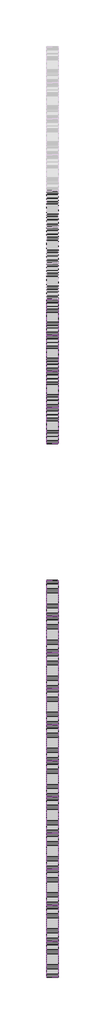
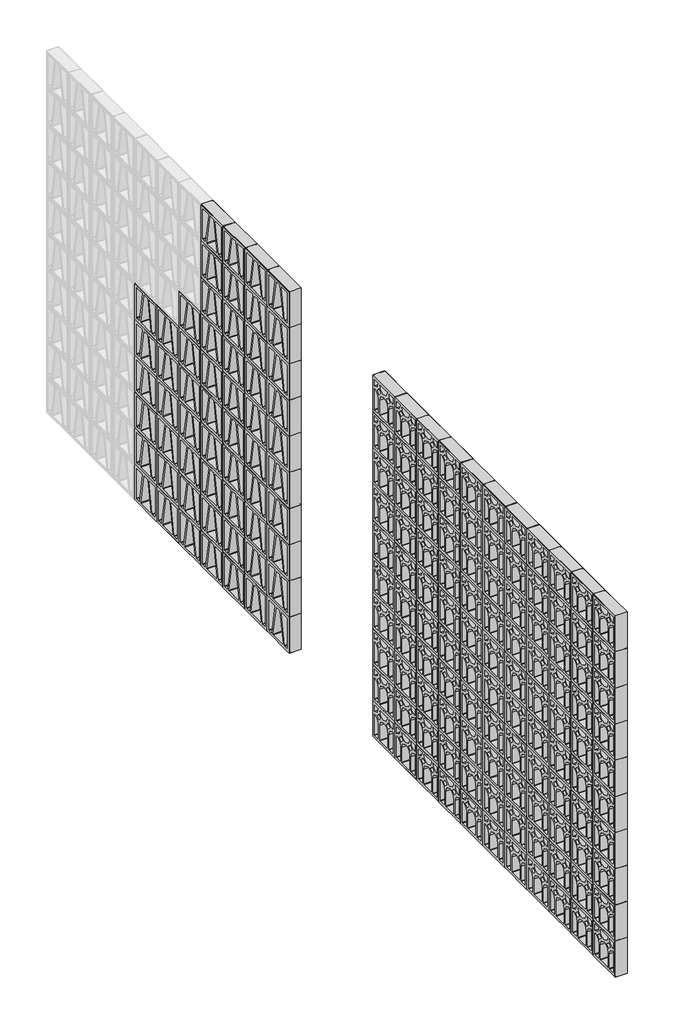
# One storey, part 1 of 8: 169 plates.
"""IFC4 building model written with IfcOpenShell, lengths in millimetres."""

from ifc_helpers import new_model, si_unit, origin, place, context, project, spatial, transform, mapped, element, save
from components import plate_7499bc92, plate_dd80494e

model = new_model("IFC4")

# Units and contexts
model_context = context("Model", 3, world=origin())
ifc_project = project(units=[si_unit("LENGTHUNIT", "METRE", prefix="MILLI")], contexts=[model_context])

# Site, building, storey
site = spatial("IfcSite", under=ifc_project)
building = spatial("IfcBuilding", under=site)
storey = spatial("IfcBuildingStorey", under=building, Name="PORTOBELLO - SHOWROOM", Elevation=0.0)

# Plates
placement = place(None, origin())
plate_shape = plate_7499bc92(model_context)
element("IfcPlate", 1, ObjectType="PORTOBELLO - STUDIO CRAFT 2 26X26 (PAINEL CORTINA) : STUDIO CRAFT 2", at=placement, inside=storey, context=model_context, shape_type="MappedRepresentation", body=[
    mapped(plate_shape, transform((227956.3824585, -9697.1299842, 0.0), x_axis=(0.0, 1.0, 0.0), y_axis=(-1.0, 0.0, 0.0), z_axis=(0.0, 0.0, 1.0))),
])
element("IfcPlate", 2, ObjectType="PORTOBELLO - STUDIO CRAFT 2 26X26 (PAINEL CORTINA) : STUDIO CRAFT 2", at=placement, inside=storey, context=model_context, shape_type="MappedRepresentation", body=[
    mapped(plate_shape, transform((227956.3824585, -9433.129984, 0.0), x_axis=(0.0, 1.0, 0.0), y_axis=(-1.0, 0.0, 0.0), z_axis=(0.0, 0.0, 1.0))),
])
element("IfcPlate", 3, ObjectType="PORTOBELLO - STUDIO CRAFT 2 26X26 (PAINEL CORTINA) : STUDIO CRAFT 2", at=placement, inside=storey, context=model_context, shape_type="MappedRepresentation", body=[
    mapped(plate_shape, transform((227956.3824585, -9169.129984, 0.0), x_axis=(0.0, 1.0, 0.0), y_axis=(-1.0, 0.0, 0.0), z_axis=(0.0, 0.0, 1.0))),
])
element("IfcPlate", 4, ObjectType="PORTOBELLO - STUDIO CRAFT 2 26X26 (PAINEL CORTINA) : STUDIO CRAFT 2", at=placement, inside=storey, context=model_context, shape_type="MappedRepresentation", body=[
    mapped(plate_shape, transform((227956.3824585, -8905.129984, 0.0), x_axis=(0.0, 1.0, 0.0), y_axis=(-1.0, 0.0, 0.0), z_axis=(0.0, 0.0, 1.0))),
])
element("IfcPlate", 5, ObjectType="PORTOBELLO - STUDIO CRAFT 2 26X26 (PAINEL CORTINA) : STUDIO CRAFT 2", at=placement, inside=storey, context=model_context, shape_type="MappedRepresentation", body=[
    mapped(plate_shape, transform((227956.3824585, -8641.129984, 0.0), x_axis=(0.0, 1.0, 0.0), y_axis=(-1.0, 0.0, 0.0), z_axis=(0.0, 0.0, 1.0))),
])
element("IfcPlate", 6, ObjectType="PORTOBELLO - STUDIO CRAFT 2 26X26 (PAINEL CORTINA) : STUDIO CRAFT 2", at=placement, inside=storey, context=model_context, shape_type="MappedRepresentation", body=[
    mapped(plate_shape, transform((227956.3824585, -8377.129984, 0.0), x_axis=(0.0, 1.0, 0.0), y_axis=(-1.0, 0.0, 0.0), z_axis=(0.0, 0.0, 1.0))),
])
element("IfcPlate", 7, ObjectType="PORTOBELLO - STUDIO CRAFT 2 26X26 (PAINEL CORTINA) : STUDIO CRAFT 2", at=placement, inside=storey, context=model_context, shape_type="MappedRepresentation", body=[
    mapped(plate_shape, transform((227956.3824585, -8113.129984, 0.0), x_axis=(0.0, 1.0, 0.0), y_axis=(-1.0, 0.0, 0.0), z_axis=(0.0, 0.0, 1.0))),
])
element("IfcPlate", 8, ObjectType="PORTOBELLO - STUDIO CRAFT 2 26X26 (PAINEL CORTINA) : STUDIO CRAFT 2", at=placement, inside=storey, context=model_context, shape_type="MappedRepresentation", body=[
    mapped(plate_shape, transform((227956.3824585, -7849.129984, 0.0), x_axis=(0.0, 1.0, 0.0), y_axis=(-1.0, 0.0, 0.0), z_axis=(0.0, 0.0, 1.0))),
])
element("IfcPlate", 9, ObjectType="PORTOBELLO - STUDIO CRAFT 2 26X26 (PAINEL CORTINA) : STUDIO CRAFT 2", at=placement, inside=storey, context=model_context, shape_type="MappedRepresentation", body=[
    mapped(plate_shape, transform((227956.3824585, -7585.129984, 0.0), x_axis=(0.0, 1.0, 0.0), y_axis=(-1.0, 0.0, 0.0), z_axis=(0.0, 0.0, 1.0))),
])
element("IfcPlate", 10, ObjectType="PORTOBELLO - STUDIO CRAFT 2 26X26 (PAINEL CORTINA) : STUDIO CRAFT 2", at=placement, inside=storey, context=model_context, shape_type="MappedRepresentation", body=[
    mapped(plate_shape, transform((227956.3824585, -7321.129984, 0.0), x_axis=(0.0, 1.0, 0.0), y_axis=(-1.0, 0.0, 0.0), z_axis=(0.0, 0.0, 1.0))),
])
element("IfcPlate", 11, ObjectType="PORTOBELLO - STUDIO CRAFT 2 26X26 (PAINEL CORTINA) : STUDIO CRAFT 2", at=placement, inside=storey, context=model_context, shape_type="MappedRepresentation", body=[
    mapped(plate_shape, transform((227956.3824585, -7057.1299841, 0.0), x_axis=(0.0, 1.0, 0.0), y_axis=(-1.0, 0.0, 0.0), z_axis=(0.0, 0.0, 1.0))),
])
element("IfcPlate", 12, ObjectType="PORTOBELLO - STUDIO CRAFT 2 26X26 (PAINEL CORTINA) : STUDIO CRAFT 2", at=placement, inside=storey, context=model_context, shape_type="MappedRepresentation", body=[
    mapped(plate_shape, transform((227956.3824585, -9697.1299842, 264.0), x_axis=(0.0, 1.0, 0.0), y_axis=(-1.0, 0.0, 0.0), z_axis=(0.0, 0.0, 1.0))),
])
element("IfcPlate", 13, ObjectType="PORTOBELLO - STUDIO CRAFT 2 26X26 (PAINEL CORTINA) : STUDIO CRAFT 2", at=placement, inside=storey, context=model_context, shape_type="MappedRepresentation", body=[
    mapped(plate_shape, transform((227956.3824585, -9433.129984, 264.0), x_axis=(0.0, 1.0, 0.0), y_axis=(-1.0, 0.0, 0.0), z_axis=(0.0, 0.0, 1.0))),
])
element("IfcPlate", 14, ObjectType="PORTOBELLO - STUDIO CRAFT 2 26X26 (PAINEL CORTINA) : STUDIO CRAFT 2", at=placement, inside=storey, context=model_context, shape_type="MappedRepresentation", body=[
    mapped(plate_shape, transform((227956.3824585, -9169.129984, 264.0), x_axis=(0.0, 1.0, 0.0), y_axis=(-1.0, 0.0, 0.0), z_axis=(0.0, 0.0, 1.0))),
])
element("IfcPlate", 15, ObjectType="PORTOBELLO - STUDIO CRAFT 2 26X26 (PAINEL CORTINA) : STUDIO CRAFT 2", at=placement, inside=storey, context=model_context, shape_type="MappedRepresentation", body=[
    mapped(plate_shape, transform((227956.3824585, -8905.129984, 264.0), x_axis=(0.0, 1.0, 0.0), y_axis=(-1.0, 0.0, 0.0), z_axis=(0.0, 0.0, 1.0))),
])
element("IfcPlate", 16, ObjectType="PORTOBELLO - STUDIO CRAFT 2 26X26 (PAINEL CORTINA) : STUDIO CRAFT 2", at=placement, inside=storey, context=model_context, shape_type="MappedRepresentation", body=[
    mapped(plate_shape, transform((227956.3824585, -8641.129984, 264.0), x_axis=(0.0, 1.0, 0.0), y_axis=(-1.0, 0.0, 0.0), z_axis=(0.0, 0.0, 1.0))),
])
element("IfcPlate", 17, ObjectType="PORTOBELLO - STUDIO CRAFT 2 26X26 (PAINEL CORTINA) : STUDIO CRAFT 2", at=placement, inside=storey, context=model_context, shape_type="MappedRepresentation", body=[
    mapped(plate_shape, transform((227956.3824585, -8377.129984, 264.0), x_axis=(0.0, 1.0, 0.0), y_axis=(-1.0, 0.0, 0.0), z_axis=(0.0, 0.0, 1.0))),
])
element("IfcPlate", 18, ObjectType="PORTOBELLO - STUDIO CRAFT 2 26X26 (PAINEL CORTINA) : STUDIO CRAFT 2", at=placement, inside=storey, context=model_context, shape_type="MappedRepresentation", body=[
    mapped(plate_shape, transform((227956.3824585, -8113.129984, 264.0), x_axis=(0.0, 1.0, 0.0), y_axis=(-1.0, 0.0, 0.0), z_axis=(0.0, 0.0, 1.0))),
])
element("IfcPlate", 19, ObjectType="PORTOBELLO - STUDIO CRAFT 2 26X26 (PAINEL CORTINA) : STUDIO CRAFT 2", at=placement, inside=storey, context=model_context, shape_type="MappedRepresentation", body=[
    mapped(plate_shape, transform((227956.3824585, -7849.129984, 264.0), x_axis=(0.0, 1.0, 0.0), y_axis=(-1.0, 0.0, 0.0), z_axis=(0.0, 0.0, 1.0))),
])
element("IfcPlate", 20, ObjectType="PORTOBELLO - STUDIO CRAFT 2 26X26 (PAINEL CORTINA) : STUDIO CRAFT 2", at=placement, inside=storey, context=model_context, shape_type="MappedRepresentation", body=[
    mapped(plate_shape, transform((227956.3824585, -7585.129984, 264.0), x_axis=(0.0, 1.0, 0.0), y_axis=(-1.0, 0.0, 0.0), z_axis=(0.0, 0.0, 1.0))),
])
element("IfcPlate", 21, ObjectType="PORTOBELLO - STUDIO CRAFT 2 26X26 (PAINEL CORTINA) : STUDIO CRAFT 2", at=placement, inside=storey, context=model_context, shape_type="MappedRepresentation", body=[
    mapped(plate_shape, transform((227956.3824585, -7321.129984, 264.0), x_axis=(0.0, 1.0, 0.0), y_axis=(-1.0, 0.0, 0.0), z_axis=(0.0, 0.0, 1.0))),
])
element("IfcPlate", 22, ObjectType="PORTOBELLO - STUDIO CRAFT 2 26X26 (PAINEL CORTINA) : STUDIO CRAFT 2", at=placement, inside=storey, context=model_context, shape_type="MappedRepresentation", body=[
    mapped(plate_shape, transform((227956.3824585, -7057.1299841, 264.0), x_axis=(0.0, 1.0, 0.0), y_axis=(-1.0, 0.0, 0.0), z_axis=(0.0, 0.0, 1.0))),
])
element("IfcPlate", 23, ObjectType="PORTOBELLO - STUDIO CRAFT 2 26X26 (PAINEL CORTINA) : STUDIO CRAFT 2", at=placement, inside=storey, context=model_context, shape_type="MappedRepresentation", body=[
    mapped(plate_shape, transform((227956.3824585, -9697.1299842, 528.0), x_axis=(0.0, 1.0, 0.0), y_axis=(-1.0, 0.0, 0.0), z_axis=(0.0, 0.0, 1.0))),
])
element("IfcPlate", 24, ObjectType="PORTOBELLO - STUDIO CRAFT 2 26X26 (PAINEL CORTINA) : STUDIO CRAFT 2", at=placement, inside=storey, context=model_context, shape_type="MappedRepresentation", body=[
    mapped(plate_shape, transform((227956.3824585, -9433.129984, 528.0), x_axis=(0.0, 1.0, 0.0), y_axis=(-1.0, 0.0, 0.0), z_axis=(0.0, 0.0, 1.0))),
])
element("IfcPlate", 25, ObjectType="PORTOBELLO - STUDIO CRAFT 2 26X26 (PAINEL CORTINA) : STUDIO CRAFT 2", at=placement, inside=storey, context=model_context, shape_type="MappedRepresentation", body=[
    mapped(plate_shape, transform((227956.3824585, -9169.129984, 528.0), x_axis=(0.0, 1.0, 0.0), y_axis=(-1.0, 0.0, 0.0), z_axis=(0.0, 0.0, 1.0))),
])
element("IfcPlate", 26, ObjectType="PORTOBELLO - STUDIO CRAFT 2 26X26 (PAINEL CORTINA) : STUDIO CRAFT 2", at=placement, inside=storey, context=model_context, shape_type="MappedRepresentation", body=[
    mapped(plate_shape, transform((227956.3824585, -8905.129984, 528.0), x_axis=(0.0, 1.0, 0.0), y_axis=(-1.0, 0.0, 0.0), z_axis=(0.0, 0.0, 1.0))),
])
element("IfcPlate", 27, ObjectType="PORTOBELLO - STUDIO CRAFT 2 26X26 (PAINEL CORTINA) : STUDIO CRAFT 2", at=placement, inside=storey, context=model_context, shape_type="MappedRepresentation", body=[
    mapped(plate_shape, transform((227956.3824585, -8641.129984, 528.0), x_axis=(0.0, 1.0, 0.0), y_axis=(-1.0, 0.0, 0.0), z_axis=(0.0, 0.0, 1.0))),
])
element("IfcPlate", 28, ObjectType="PORTOBELLO - STUDIO CRAFT 2 26X26 (PAINEL CORTINA) : STUDIO CRAFT 2", at=placement, inside=storey, context=model_context, shape_type="MappedRepresentation", body=[
    mapped(plate_shape, transform((227956.3824585, -8377.129984, 528.0), x_axis=(0.0, 1.0, 0.0), y_axis=(-1.0, 0.0, 0.0), z_axis=(0.0, 0.0, 1.0))),
])
element("IfcPlate", 29, ObjectType="PORTOBELLO - STUDIO CRAFT 2 26X26 (PAINEL CORTINA) : STUDIO CRAFT 2", at=placement, inside=storey, context=model_context, shape_type="MappedRepresentation", body=[
    mapped(plate_shape, transform((227956.3824585, -8113.129984, 528.0), x_axis=(0.0, 1.0, 0.0), y_axis=(-1.0, 0.0, 0.0), z_axis=(0.0, 0.0, 1.0))),
])
element("IfcPlate", 30, ObjectType="PORTOBELLO - STUDIO CRAFT 2 26X26 (PAINEL CORTINA) : STUDIO CRAFT 2", at=placement, inside=storey, context=model_context, shape_type="MappedRepresentation", body=[
    mapped(plate_shape, transform((227956.3824585, -7849.129984, 528.0), x_axis=(0.0, 1.0, 0.0), y_axis=(-1.0, 0.0, 0.0), z_axis=(0.0, 0.0, 1.0))),
])
element("IfcPlate", 31, ObjectType="PORTOBELLO - STUDIO CRAFT 2 26X26 (PAINEL CORTINA) : STUDIO CRAFT 2", at=placement, inside=storey, context=model_context, shape_type="MappedRepresentation", body=[
    mapped(plate_shape, transform((227956.3824585, -7585.129984, 528.0), x_axis=(0.0, 1.0, 0.0), y_axis=(-1.0, 0.0, 0.0), z_axis=(0.0, 0.0, 1.0))),
])
element("IfcPlate", 32, ObjectType="PORTOBELLO - STUDIO CRAFT 2 26X26 (PAINEL CORTINA) : STUDIO CRAFT 2", at=placement, inside=storey, context=model_context, shape_type="MappedRepresentation", body=[
    mapped(plate_shape, transform((227956.3824585, -7321.129984, 528.0), x_axis=(0.0, 1.0, 0.0), y_axis=(-1.0, 0.0, 0.0), z_axis=(0.0, 0.0, 1.0))),
])
element("IfcPlate", 33, ObjectType="PORTOBELLO - STUDIO CRAFT 2 26X26 (PAINEL CORTINA) : STUDIO CRAFT 2", at=placement, inside=storey, context=model_context, shape_type="MappedRepresentation", body=[
    mapped(plate_shape, transform((227956.3824585, -7057.1299841, 528.0), x_axis=(0.0, 1.0, 0.0), y_axis=(-1.0, 0.0, 0.0), z_axis=(0.0, 0.0, 1.0))),
])
element("IfcPlate", 34, ObjectType="PORTOBELLO - STUDIO CRAFT 2 26X26 (PAINEL CORTINA) : STUDIO CRAFT 2", at=placement, inside=storey, context=model_context, shape_type="MappedRepresentation", body=[
    mapped(plate_shape, transform((227956.3824585, -9697.1299842, 792.0), x_axis=(0.0, 1.0, 0.0), y_axis=(-1.0, 0.0, 0.0), z_axis=(0.0, 0.0, 1.0))),
])
element("IfcPlate", 35, ObjectType="PORTOBELLO - STUDIO CRAFT 2 26X26 (PAINEL CORTINA) : STUDIO CRAFT 2", at=placement, inside=storey, context=model_context, shape_type="MappedRepresentation", body=[
    mapped(plate_shape, transform((227956.3824585, -9433.129984, 792.0), x_axis=(0.0, 1.0, 0.0), y_axis=(-1.0, 0.0, 0.0), z_axis=(0.0, 0.0, 1.0))),
])
element("IfcPlate", 36, ObjectType="PORTOBELLO - STUDIO CRAFT 2 26X26 (PAINEL CORTINA) : STUDIO CRAFT 2", at=placement, inside=storey, context=model_context, shape_type="MappedRepresentation", body=[
    mapped(plate_shape, transform((227956.3824585, -9169.129984, 792.0), x_axis=(0.0, 1.0, 0.0), y_axis=(-1.0, 0.0, 0.0), z_axis=(0.0, 0.0, 1.0))),
])
element("IfcPlate", 37, ObjectType="PORTOBELLO - STUDIO CRAFT 2 26X26 (PAINEL CORTINA) : STUDIO CRAFT 2", at=placement, inside=storey, context=model_context, shape_type="MappedRepresentation", body=[
    mapped(plate_shape, transform((227956.3824585, -8905.129984, 792.0), x_axis=(0.0, 1.0, 0.0), y_axis=(-1.0, 0.0, 0.0), z_axis=(0.0, 0.0, 1.0))),
])
element("IfcPlate", 38, ObjectType="PORTOBELLO - STUDIO CRAFT 2 26X26 (PAINEL CORTINA) : STUDIO CRAFT 2", at=placement, inside=storey, context=model_context, shape_type="MappedRepresentation", body=[
    mapped(plate_shape, transform((227956.3824585, -8641.129984, 792.0), x_axis=(0.0, 1.0, 0.0), y_axis=(-1.0, 0.0, 0.0), z_axis=(0.0, 0.0, 1.0))),
])
element("IfcPlate", 39, ObjectType="PORTOBELLO - STUDIO CRAFT 2 26X26 (PAINEL CORTINA) : STUDIO CRAFT 2", at=placement, inside=storey, context=model_context, shape_type="MappedRepresentation", body=[
    mapped(plate_shape, transform((227956.3824585, -8377.129984, 792.0), x_axis=(0.0, 1.0, 0.0), y_axis=(-1.0, 0.0, 0.0), z_axis=(0.0, 0.0, 1.0))),
])
element("IfcPlate", 40, ObjectType="PORTOBELLO - STUDIO CRAFT 2 26X26 (PAINEL CORTINA) : STUDIO CRAFT 2", at=placement, inside=storey, context=model_context, shape_type="MappedRepresentation", body=[
    mapped(plate_shape, transform((227956.3824585, -8113.129984, 792.0), x_axis=(0.0, 1.0, 0.0), y_axis=(-1.0, 0.0, 0.0), z_axis=(0.0, 0.0, 1.0))),
])
element("IfcPlate", 41, ObjectType="PORTOBELLO - STUDIO CRAFT 2 26X26 (PAINEL CORTINA) : STUDIO CRAFT 2", at=placement, inside=storey, context=model_context, shape_type="MappedRepresentation", body=[
    mapped(plate_shape, transform((227956.3824585, -7849.129984, 792.0), x_axis=(0.0, 1.0, 0.0), y_axis=(-1.0, 0.0, 0.0), z_axis=(0.0, 0.0, 1.0))),
])
element("IfcPlate", 42, ObjectType="PORTOBELLO - STUDIO CRAFT 2 26X26 (PAINEL CORTINA) : STUDIO CRAFT 2", at=placement, inside=storey, context=model_context, shape_type="MappedRepresentation", body=[
    mapped(plate_shape, transform((227956.3824585, -7585.129984, 792.0), x_axis=(0.0, 1.0, 0.0), y_axis=(-1.0, 0.0, 0.0), z_axis=(0.0, 0.0, 1.0))),
])
element("IfcPlate", 43, ObjectType="PORTOBELLO - STUDIO CRAFT 2 26X26 (PAINEL CORTINA) : STUDIO CRAFT 2", at=placement, inside=storey, context=model_context, shape_type="MappedRepresentation", body=[
    mapped(plate_shape, transform((227956.3824585, -7321.129984, 792.0), x_axis=(0.0, 1.0, 0.0), y_axis=(-1.0, 0.0, 0.0), z_axis=(0.0, 0.0, 1.0))),
])
element("IfcPlate", 44, ObjectType="PORTOBELLO - STUDIO CRAFT 2 26X26 (PAINEL CORTINA) : STUDIO CRAFT 2", at=placement, inside=storey, context=model_context, shape_type="MappedRepresentation", body=[
    mapped(plate_shape, transform((227956.3824585, -7057.1299841, 792.0), x_axis=(0.0, 1.0, 0.0), y_axis=(-1.0, 0.0, 0.0), z_axis=(0.0, 0.0, 1.0))),
])
element("IfcPlate", 45, ObjectType="PORTOBELLO - STUDIO CRAFT 2 26X26 (PAINEL CORTINA) : STUDIO CRAFT 2", at=placement, inside=storey, context=model_context, shape_type="MappedRepresentation", body=[
    mapped(plate_shape, transform((227956.3824585, -9697.1299842, 1056.0), x_axis=(0.0, 1.0, 0.0), y_axis=(-1.0, 0.0, 0.0), z_axis=(0.0, 0.0, 1.0))),
])
element("IfcPlate", 46, ObjectType="PORTOBELLO - STUDIO CRAFT 2 26X26 (PAINEL CORTINA) : STUDIO CRAFT 2", at=placement, inside=storey, context=model_context, shape_type="MappedRepresentation", body=[
    mapped(plate_shape, transform((227956.3824585, -9433.129984, 1056.0), x_axis=(0.0, 1.0, 0.0), y_axis=(-1.0, 0.0, 0.0), z_axis=(0.0, 0.0, 1.0))),
])
element("IfcPlate", 47, ObjectType="PORTOBELLO - STUDIO CRAFT 2 26X26 (PAINEL CORTINA) : STUDIO CRAFT 2", at=placement, inside=storey, context=model_context, shape_type="MappedRepresentation", body=[
    mapped(plate_shape, transform((227956.3824585, -9169.129984, 1056.0), x_axis=(0.0, 1.0, 0.0), y_axis=(-1.0, 0.0, 0.0), z_axis=(0.0, 0.0, 1.0))),
])
element("IfcPlate", 48, ObjectType="PORTOBELLO - STUDIO CRAFT 2 26X26 (PAINEL CORTINA) : STUDIO CRAFT 2", at=placement, inside=storey, context=model_context, shape_type="MappedRepresentation", body=[
    mapped(plate_shape, transform((227956.3824585, -8905.129984, 1056.0), x_axis=(0.0, 1.0, 0.0), y_axis=(-1.0, 0.0, 0.0), z_axis=(0.0, 0.0, 1.0))),
])
element("IfcPlate", 49, ObjectType="PORTOBELLO - STUDIO CRAFT 2 26X26 (PAINEL CORTINA) : STUDIO CRAFT 2", at=placement, inside=storey, context=model_context, shape_type="MappedRepresentation", body=[
    mapped(plate_shape, transform((227956.3824585, -8641.129984, 1056.0), x_axis=(0.0, 1.0, 0.0), y_axis=(-1.0, 0.0, 0.0), z_axis=(0.0, 0.0, 1.0))),
])
element("IfcPlate", 50, ObjectType="PORTOBELLO - STUDIO CRAFT 2 26X26 (PAINEL CORTINA) : STUDIO CRAFT 2", at=placement, inside=storey, context=model_context, shape_type="MappedRepresentation", body=[
    mapped(plate_shape, transform((227956.3824585, -8377.129984, 1056.0), x_axis=(0.0, 1.0, 0.0), y_axis=(-1.0, 0.0, 0.0), z_axis=(0.0, 0.0, 1.0))),
])
element("IfcPlate", 51, ObjectType="PORTOBELLO - STUDIO CRAFT 2 26X26 (PAINEL CORTINA) : STUDIO CRAFT 2", at=placement, inside=storey, context=model_context, shape_type="MappedRepresentation", body=[
    mapped(plate_shape, transform((227956.3824585, -8113.129984, 1056.0), x_axis=(0.0, 1.0, 0.0), y_axis=(-1.0, 0.0, 0.0), z_axis=(0.0, 0.0, 1.0))),
])
element("IfcPlate", 52, ObjectType="PORTOBELLO - STUDIO CRAFT 2 26X26 (PAINEL CORTINA) : STUDIO CRAFT 2", at=placement, inside=storey, context=model_context, shape_type="MappedRepresentation", body=[
    mapped(plate_shape, transform((227956.3824585, -7849.129984, 1056.0), x_axis=(0.0, 1.0, 0.0), y_axis=(-1.0, 0.0, 0.0), z_axis=(0.0, 0.0, 1.0))),
])
element("IfcPlate", 53, ObjectType="PORTOBELLO - STUDIO CRAFT 2 26X26 (PAINEL CORTINA) : STUDIO CRAFT 2", at=placement, inside=storey, context=model_context, shape_type="MappedRepresentation", body=[
    mapped(plate_shape, transform((227956.3824585, -7585.129984, 1056.0), x_axis=(0.0, 1.0, 0.0), y_axis=(-1.0, 0.0, 0.0), z_axis=(0.0, 0.0, 1.0))),
])
element("IfcPlate", 54, ObjectType="PORTOBELLO - STUDIO CRAFT 2 26X26 (PAINEL CORTINA) : STUDIO CRAFT 2", at=placement, inside=storey, context=model_context, shape_type="MappedRepresentation", body=[
    mapped(plate_shape, transform((227956.3824585, -7321.129984, 1056.0), x_axis=(0.0, 1.0, 0.0), y_axis=(-1.0, 0.0, 0.0), z_axis=(0.0, 0.0, 1.0))),
])
element("IfcPlate", 55, ObjectType="PORTOBELLO - STUDIO CRAFT 2 26X26 (PAINEL CORTINA) : STUDIO CRAFT 2", at=placement, inside=storey, context=model_context, shape_type="MappedRepresentation", body=[
    mapped(plate_shape, transform((227956.3824585, -7057.1299841, 1056.0), x_axis=(0.0, 1.0, 0.0), y_axis=(-1.0, 0.0, 0.0), z_axis=(0.0, 0.0, 1.0))),
])
element("IfcPlate", 56, ObjectType="PORTOBELLO - STUDIO CRAFT 2 26X26 (PAINEL CORTINA) : STUDIO CRAFT 2", at=placement, inside=storey, context=model_context, shape_type="MappedRepresentation", body=[
    mapped(plate_shape, transform((227956.3824585, -9697.1299842, 1320.0), x_axis=(0.0, 1.0, 0.0), y_axis=(-1.0, 0.0, 0.0), z_axis=(0.0, 0.0, 1.0))),
])
element("IfcPlate", 57, ObjectType="PORTOBELLO - STUDIO CRAFT 2 26X26 (PAINEL CORTINA) : STUDIO CRAFT 2", at=placement, inside=storey, context=model_context, shape_type="MappedRepresentation", body=[
    mapped(plate_shape, transform((227956.3824585, -9433.129984, 1320.0), x_axis=(0.0, 1.0, 0.0), y_axis=(-1.0, 0.0, 0.0), z_axis=(0.0, 0.0, 1.0))),
])
element("IfcPlate", 58, ObjectType="PORTOBELLO - STUDIO CRAFT 2 26X26 (PAINEL CORTINA) : STUDIO CRAFT 2", at=placement, inside=storey, context=model_context, shape_type="MappedRepresentation", body=[
    mapped(plate_shape, transform((227956.3824585, -9169.129984, 1320.0), x_axis=(0.0, 1.0, 0.0), y_axis=(-1.0, 0.0, 0.0), z_axis=(0.0, 0.0, 1.0))),
])
element("IfcPlate", 59, ObjectType="PORTOBELLO - STUDIO CRAFT 2 26X26 (PAINEL CORTINA) : STUDIO CRAFT 2", at=placement, inside=storey, context=model_context, shape_type="MappedRepresentation", body=[
    mapped(plate_shape, transform((227956.3824585, -8905.129984, 1320.0), x_axis=(0.0, 1.0, 0.0), y_axis=(-1.0, 0.0, 0.0), z_axis=(0.0, 0.0, 1.0))),
])
element("IfcPlate", 60, ObjectType="PORTOBELLO - STUDIO CRAFT 2 26X26 (PAINEL CORTINA) : STUDIO CRAFT 2", at=placement, inside=storey, context=model_context, shape_type="MappedRepresentation", body=[
    mapped(plate_shape, transform((227956.3824585, -8641.129984, 1320.0), x_axis=(0.0, 1.0, 0.0), y_axis=(-1.0, 0.0, 0.0), z_axis=(0.0, 0.0, 1.0))),
])
element("IfcPlate", 61, ObjectType="PORTOBELLO - STUDIO CRAFT 2 26X26 (PAINEL CORTINA) : STUDIO CRAFT 2", at=placement, inside=storey, context=model_context, shape_type="MappedRepresentation", body=[
    mapped(plate_shape, transform((227956.3824585, -8377.129984, 1320.0), x_axis=(0.0, 1.0, 0.0), y_axis=(-1.0, 0.0, 0.0), z_axis=(0.0, 0.0, 1.0))),
])
element("IfcPlate", 62, ObjectType="PORTOBELLO - STUDIO CRAFT 2 26X26 (PAINEL CORTINA) : STUDIO CRAFT 2", at=placement, inside=storey, context=model_context, shape_type="MappedRepresentation", body=[
    mapped(plate_shape, transform((227956.3824585, -8113.129984, 1320.0), x_axis=(0.0, 1.0, 0.0), y_axis=(-1.0, 0.0, 0.0), z_axis=(0.0, 0.0, 1.0))),
])
element("IfcPlate", 63, ObjectType="PORTOBELLO - STUDIO CRAFT 2 26X26 (PAINEL CORTINA) : STUDIO CRAFT 2", at=placement, inside=storey, context=model_context, shape_type="MappedRepresentation", body=[
    mapped(plate_shape, transform((227956.3824585, -7849.129984, 1320.0), x_axis=(0.0, 1.0, 0.0), y_axis=(-1.0, 0.0, 0.0), z_axis=(0.0, 0.0, 1.0))),
])
element("IfcPlate", 64, ObjectType="PORTOBELLO - STUDIO CRAFT 2 26X26 (PAINEL CORTINA) : STUDIO CRAFT 2", at=placement, inside=storey, context=model_context, shape_type="MappedRepresentation", body=[
    mapped(plate_shape, transform((227956.3824585, -7585.129984, 1320.0), x_axis=(0.0, 1.0, 0.0), y_axis=(-1.0, 0.0, 0.0), z_axis=(0.0, 0.0, 1.0))),
])
element("IfcPlate", 65, ObjectType="PORTOBELLO - STUDIO CRAFT 2 26X26 (PAINEL CORTINA) : STUDIO CRAFT 2", at=placement, inside=storey, context=model_context, shape_type="MappedRepresentation", body=[
    mapped(plate_shape, transform((227956.3824585, -7321.129984, 1320.0), x_axis=(0.0, 1.0, 0.0), y_axis=(-1.0, 0.0, 0.0), z_axis=(0.0, 0.0, 1.0))),
])
element("IfcPlate", 66, ObjectType="PORTOBELLO - STUDIO CRAFT 2 26X26 (PAINEL CORTINA) : STUDIO CRAFT 2", at=placement, inside=storey, context=model_context, shape_type="MappedRepresentation", body=[
    mapped(plate_shape, transform((227956.3824585, -7057.1299841, 1320.0), x_axis=(0.0, 1.0, 0.0), y_axis=(-1.0, 0.0, 0.0), z_axis=(0.0, 0.0, 1.0))),
])
element("IfcPlate", 67, ObjectType="PORTOBELLO - STUDIO CRAFT 2 26X26 (PAINEL CORTINA) : STUDIO CRAFT 2", at=placement, inside=storey, context=model_context, shape_type="MappedRepresentation", body=[
    mapped(plate_shape, transform((227956.3824585, -9697.1299842, 1584.0), x_axis=(0.0, 1.0, 0.0), y_axis=(-1.0, 0.0, 0.0), z_axis=(0.0, 0.0, 1.0))),
])
element("IfcPlate", 68, ObjectType="PORTOBELLO - STUDIO CRAFT 2 26X26 (PAINEL CORTINA) : STUDIO CRAFT 2", at=placement, inside=storey, context=model_context, shape_type="MappedRepresentation", body=[
    mapped(plate_shape, transform((227956.3824585, -9433.129984, 1584.0), x_axis=(0.0, 1.0, 0.0), y_axis=(-1.0, 0.0, 0.0), z_axis=(0.0, 0.0, 1.0))),
])
element("IfcPlate", 69, ObjectType="PORTOBELLO - STUDIO CRAFT 2 26X26 (PAINEL CORTINA) : STUDIO CRAFT 2", at=placement, inside=storey, context=model_context, shape_type="MappedRepresentation", body=[
    mapped(plate_shape, transform((227956.3824585, -9169.129984, 1584.0), x_axis=(0.0, 1.0, 0.0), y_axis=(-1.0, 0.0, 0.0), z_axis=(0.0, 0.0, 1.0))),
])
element("IfcPlate", 70, ObjectType="PORTOBELLO - STUDIO CRAFT 2 26X26 (PAINEL CORTINA) : STUDIO CRAFT 2", at=placement, inside=storey, context=model_context, shape_type="MappedRepresentation", body=[
    mapped(plate_shape, transform((227956.3824585, -8905.129984, 1584.0), x_axis=(0.0, 1.0, 0.0), y_axis=(-1.0, 0.0, 0.0), z_axis=(0.0, 0.0, 1.0))),
])
element("IfcPlate", 71, ObjectType="PORTOBELLO - STUDIO CRAFT 2 26X26 (PAINEL CORTINA) : STUDIO CRAFT 2", at=placement, inside=storey, context=model_context, shape_type="MappedRepresentation", body=[
    mapped(plate_shape, transform((227956.3824585, -8641.129984, 1584.0), x_axis=(0.0, 1.0, 0.0), y_axis=(-1.0, 0.0, 0.0), z_axis=(0.0, 0.0, 1.0))),
])
element("IfcPlate", 72, ObjectType="PORTOBELLO - STUDIO CRAFT 2 26X26 (PAINEL CORTINA) : STUDIO CRAFT 2", at=placement, inside=storey, context=model_context, shape_type="MappedRepresentation", body=[
    mapped(plate_shape, transform((227956.3824585, -8377.129984, 1584.0), x_axis=(0.0, 1.0, 0.0), y_axis=(-1.0, 0.0, 0.0), z_axis=(0.0, 0.0, 1.0))),
])
element("IfcPlate", 73, ObjectType="PORTOBELLO - STUDIO CRAFT 2 26X26 (PAINEL CORTINA) : STUDIO CRAFT 2", at=placement, inside=storey, context=model_context, shape_type="MappedRepresentation", body=[
    mapped(plate_shape, transform((227956.3824585, -8113.129984, 1584.0), x_axis=(0.0, 1.0, 0.0), y_axis=(-1.0, 0.0, 0.0), z_axis=(0.0, 0.0, 1.0))),
])
element("IfcPlate", 74, ObjectType="PORTOBELLO - STUDIO CRAFT 2 26X26 (PAINEL CORTINA) : STUDIO CRAFT 2", at=placement, inside=storey, context=model_context, shape_type="MappedRepresentation", body=[
    mapped(plate_shape, transform((227956.3824585, -7849.129984, 1584.0), x_axis=(0.0, 1.0, 0.0), y_axis=(-1.0, 0.0, 0.0), z_axis=(0.0, 0.0, 1.0))),
])
element("IfcPlate", 75, ObjectType="PORTOBELLO - STUDIO CRAFT 2 26X26 (PAINEL CORTINA) : STUDIO CRAFT 2", at=placement, inside=storey, context=model_context, shape_type="MappedRepresentation", body=[
    mapped(plate_shape, transform((227956.3824585, -7585.129984, 1584.0), x_axis=(0.0, 1.0, 0.0), y_axis=(-1.0, 0.0, 0.0), z_axis=(0.0, 0.0, 1.0))),
])
element("IfcPlate", 76, ObjectType="PORTOBELLO - STUDIO CRAFT 2 26X26 (PAINEL CORTINA) : STUDIO CRAFT 2", at=placement, inside=storey, context=model_context, shape_type="MappedRepresentation", body=[
    mapped(plate_shape, transform((227956.3824585, -7321.129984, 1584.0), x_axis=(0.0, 1.0, 0.0), y_axis=(-1.0, 0.0, 0.0), z_axis=(0.0, 0.0, 1.0))),
])
element("IfcPlate", 77, ObjectType="PORTOBELLO - STUDIO CRAFT 2 26X26 (PAINEL CORTINA) : STUDIO CRAFT 2", at=placement, inside=storey, context=model_context, shape_type="MappedRepresentation", body=[
    mapped(plate_shape, transform((227956.3824585, -7057.1299841, 1584.0), x_axis=(0.0, 1.0, 0.0), y_axis=(-1.0, 0.0, 0.0), z_axis=(0.0, 0.0, 1.0))),
])
element("IfcPlate", 78, ObjectType="PORTOBELLO - STUDIO CRAFT 2 26X26 (PAINEL CORTINA) : STUDIO CRAFT 2", at=placement, inside=storey, context=model_context, shape_type="MappedRepresentation", body=[
    mapped(plate_shape, transform((227956.3824585, -9697.1299842, 1848.0), x_axis=(0.0, 1.0, 0.0), y_axis=(-1.0, 0.0, 0.0), z_axis=(0.0, 0.0, 1.0))),
])
element("IfcPlate", 79, ObjectType="PORTOBELLO - STUDIO CRAFT 2 26X26 (PAINEL CORTINA) : STUDIO CRAFT 2", at=placement, inside=storey, context=model_context, shape_type="MappedRepresentation", body=[
    mapped(plate_shape, transform((227956.3824585, -9433.129984, 1848.0), x_axis=(0.0, 1.0, 0.0), y_axis=(-1.0, 0.0, 0.0), z_axis=(0.0, 0.0, 1.0))),
])
element("IfcPlate", 80, ObjectType="PORTOBELLO - STUDIO CRAFT 2 26X26 (PAINEL CORTINA) : STUDIO CRAFT 2", at=placement, inside=storey, context=model_context, shape_type="MappedRepresentation", body=[
    mapped(plate_shape, transform((227956.3824585, -9169.129984, 1848.0), x_axis=(0.0, 1.0, 0.0), y_axis=(-1.0, 0.0, 0.0), z_axis=(0.0, 0.0, 1.0))),
])
element("IfcPlate", 81, ObjectType="PORTOBELLO - STUDIO CRAFT 2 26X26 (PAINEL CORTINA) : STUDIO CRAFT 2", at=placement, inside=storey, context=model_context, shape_type="MappedRepresentation", body=[
    mapped(plate_shape, transform((227956.3824585, -8905.129984, 1848.0), x_axis=(0.0, 1.0, 0.0), y_axis=(-1.0, 0.0, 0.0), z_axis=(0.0, 0.0, 1.0))),
])
element("IfcPlate", 82, ObjectType="PORTOBELLO - STUDIO CRAFT 2 26X26 (PAINEL CORTINA) : STUDIO CRAFT 2", at=placement, inside=storey, context=model_context, shape_type="MappedRepresentation", body=[
    mapped(plate_shape, transform((227956.3824585, -8641.129984, 1848.0), x_axis=(0.0, 1.0, 0.0), y_axis=(-1.0, 0.0, 0.0), z_axis=(0.0, 0.0, 1.0))),
])
element("IfcPlate", 83, ObjectType="PORTOBELLO - STUDIO CRAFT 2 26X26 (PAINEL CORTINA) : STUDIO CRAFT 2", at=placement, inside=storey, context=model_context, shape_type="MappedRepresentation", body=[
    mapped(plate_shape, transform((227956.3824585, -8377.129984, 1848.0), x_axis=(0.0, 1.0, 0.0), y_axis=(-1.0, 0.0, 0.0), z_axis=(0.0, 0.0, 1.0))),
])
element("IfcPlate", 84, ObjectType="PORTOBELLO - STUDIO CRAFT 2 26X26 (PAINEL CORTINA) : STUDIO CRAFT 2", at=placement, inside=storey, context=model_context, shape_type="MappedRepresentation", body=[
    mapped(plate_shape, transform((227956.3824585, -8113.129984, 1848.0), x_axis=(0.0, 1.0, 0.0), y_axis=(-1.0, 0.0, 0.0), z_axis=(0.0, 0.0, 1.0))),
])
element("IfcPlate", 85, ObjectType="PORTOBELLO - STUDIO CRAFT 2 26X26 (PAINEL CORTINA) : STUDIO CRAFT 2", at=placement, inside=storey, context=model_context, shape_type="MappedRepresentation", body=[
    mapped(plate_shape, transform((227956.3824585, -7849.129984, 1848.0), x_axis=(0.0, 1.0, 0.0), y_axis=(-1.0, 0.0, 0.0), z_axis=(0.0, 0.0, 1.0))),
])
element("IfcPlate", 86, ObjectType="PORTOBELLO - STUDIO CRAFT 2 26X26 (PAINEL CORTINA) : STUDIO CRAFT 2", at=placement, inside=storey, context=model_context, shape_type="MappedRepresentation", body=[
    mapped(plate_shape, transform((227956.3824585, -7585.129984, 1848.0), x_axis=(0.0, 1.0, 0.0), y_axis=(-1.0, 0.0, 0.0), z_axis=(0.0, 0.0, 1.0))),
])
element("IfcPlate", 87, ObjectType="PORTOBELLO - STUDIO CRAFT 2 26X26 (PAINEL CORTINA) : STUDIO CRAFT 2", at=placement, inside=storey, context=model_context, shape_type="MappedRepresentation", body=[
    mapped(plate_shape, transform((227956.3824585, -7321.129984, 1848.0), x_axis=(0.0, 1.0, 0.0), y_axis=(-1.0, 0.0, 0.0), z_axis=(0.0, 0.0, 1.0))),
])
element("IfcPlate", 88, ObjectType="PORTOBELLO - STUDIO CRAFT 2 26X26 (PAINEL CORTINA) : STUDIO CRAFT 2", at=placement, inside=storey, context=model_context, shape_type="MappedRepresentation", body=[
    mapped(plate_shape, transform((227956.3824585, -7057.1299841, 1848.0), x_axis=(0.0, 1.0, 0.0), y_axis=(-1.0, 0.0, 0.0), z_axis=(0.0, 0.0, 1.0))),
])
element("IfcPlate", 89, ObjectType="PORTOBELLO - STUDIO CRAFT 2 26X26 (PAINEL CORTINA) : STUDIO CRAFT 2", at=placement, inside=storey, context=model_context, shape_type="MappedRepresentation", body=[
    mapped(plate_shape, transform((227956.3824585, -9697.1299842, 2112.0), x_axis=(0.0, 1.0, 0.0), y_axis=(-1.0, 0.0, 0.0), z_axis=(0.0, 0.0, 1.0))),
])
element("IfcPlate", 90, ObjectType="PORTOBELLO - STUDIO CRAFT 2 26X26 (PAINEL CORTINA) : STUDIO CRAFT 2", at=placement, inside=storey, context=model_context, shape_type="MappedRepresentation", body=[
    mapped(plate_shape, transform((227956.3824585, -9433.129984, 2112.0), x_axis=(0.0, 1.0, 0.0), y_axis=(-1.0, 0.0, 0.0), z_axis=(0.0, 0.0, 1.0))),
])
element("IfcPlate", 91, ObjectType="PORTOBELLO - STUDIO CRAFT 2 26X26 (PAINEL CORTINA) : STUDIO CRAFT 2", at=placement, inside=storey, context=model_context, shape_type="MappedRepresentation", body=[
    mapped(plate_shape, transform((227956.3824585, -9169.129984, 2112.0), x_axis=(0.0, 1.0, 0.0), y_axis=(-1.0, 0.0, 0.0), z_axis=(0.0, 0.0, 1.0))),
])
element("IfcPlate", 92, ObjectType="PORTOBELLO - STUDIO CRAFT 2 26X26 (PAINEL CORTINA) : STUDIO CRAFT 2", at=placement, inside=storey, context=model_context, shape_type="MappedRepresentation", body=[
    mapped(plate_shape, transform((227956.3824585, -8905.129984, 2112.0), x_axis=(0.0, 1.0, 0.0), y_axis=(-1.0, 0.0, 0.0), z_axis=(0.0, 0.0, 1.0))),
])
element("IfcPlate", 93, ObjectType="PORTOBELLO - STUDIO CRAFT 2 26X26 (PAINEL CORTINA) : STUDIO CRAFT 2", at=placement, inside=storey, context=model_context, shape_type="MappedRepresentation", body=[
    mapped(plate_shape, transform((227956.3824585, -8641.129984, 2112.0), x_axis=(0.0, 1.0, 0.0), y_axis=(-1.0, 0.0, 0.0), z_axis=(0.0, 0.0, 1.0))),
])
element("IfcPlate", 94, ObjectType="PORTOBELLO - STUDIO CRAFT 2 26X26 (PAINEL CORTINA) : STUDIO CRAFT 2", at=placement, inside=storey, context=model_context, shape_type="MappedRepresentation", body=[
    mapped(plate_shape, transform((227956.3824585, -8377.129984, 2112.0), x_axis=(0.0, 1.0, 0.0), y_axis=(-1.0, 0.0, 0.0), z_axis=(0.0, 0.0, 1.0))),
])
element("IfcPlate", 95, ObjectType="PORTOBELLO - STUDIO CRAFT 2 26X26 (PAINEL CORTINA) : STUDIO CRAFT 2", at=placement, inside=storey, context=model_context, shape_type="MappedRepresentation", body=[
    mapped(plate_shape, transform((227956.3824585, -8113.129984, 2112.0), x_axis=(0.0, 1.0, 0.0), y_axis=(-1.0, 0.0, 0.0), z_axis=(0.0, 0.0, 1.0))),
])
element("IfcPlate", 96, ObjectType="PORTOBELLO - STUDIO CRAFT 2 26X26 (PAINEL CORTINA) : STUDIO CRAFT 2", at=placement, inside=storey, context=model_context, shape_type="MappedRepresentation", body=[
    mapped(plate_shape, transform((227956.3824585, -7849.129984, 2112.0), x_axis=(0.0, 1.0, 0.0), y_axis=(-1.0, 0.0, 0.0), z_axis=(0.0, 0.0, 1.0))),
])
element("IfcPlate", 97, ObjectType="PORTOBELLO - STUDIO CRAFT 2 26X26 (PAINEL CORTINA) : STUDIO CRAFT 2", at=placement, inside=storey, context=model_context, shape_type="MappedRepresentation", body=[
    mapped(plate_shape, transform((227956.3824585, -7585.129984, 2112.0), x_axis=(0.0, 1.0, 0.0), y_axis=(-1.0, 0.0, 0.0), z_axis=(0.0, 0.0, 1.0))),
])
element("IfcPlate", 98, ObjectType="PORTOBELLO - STUDIO CRAFT 2 26X26 (PAINEL CORTINA) : STUDIO CRAFT 2", at=placement, inside=storey, context=model_context, shape_type="MappedRepresentation", body=[
    mapped(plate_shape, transform((227956.3824585, -7321.129984, 2112.0), x_axis=(0.0, 1.0, 0.0), y_axis=(-1.0, 0.0, 0.0), z_axis=(0.0, 0.0, 1.0))),
])
element("IfcPlate", 99, ObjectType="PORTOBELLO - STUDIO CRAFT 2 26X26 (PAINEL CORTINA) : STUDIO CRAFT 2", at=placement, inside=storey, context=model_context, shape_type="MappedRepresentation", body=[
    mapped(plate_shape, transform((227956.3824585, -7057.1299841, 2112.0), x_axis=(0.0, 1.0, 0.0), y_axis=(-1.0, 0.0, 0.0), z_axis=(0.0, 0.0, 1.0))),
])
element("IfcPlate", 100, ObjectType="PORTOBELLO - STUDIO CRAFT 2 26X26 (PAINEL CORTINA) : STUDIO CRAFT 2", at=placement, inside=storey, context=model_context, shape_type="MappedRepresentation", body=[
    mapped(plate_shape, transform((227956.3824585, -9697.1299842, 2376.0), x_axis=(0.0, 1.0, 0.0), y_axis=(-1.0, 0.0, 0.0), z_axis=(0.0, 0.0, 1.0))),
])
element("IfcPlate", 101, ObjectType="PORTOBELLO - STUDIO CRAFT 2 26X26 (PAINEL CORTINA) : STUDIO CRAFT 2", at=placement, inside=storey, context=model_context, shape_type="MappedRepresentation", body=[
    mapped(plate_shape, transform((227956.3824585, -9433.129984, 2376.0), x_axis=(0.0, 1.0, 0.0), y_axis=(-1.0, 0.0, 0.0), z_axis=(0.0, 0.0, 1.0))),
])
element("IfcPlate", 102, ObjectType="PORTOBELLO - STUDIO CRAFT 2 26X26 (PAINEL CORTINA) : STUDIO CRAFT 2", at=placement, inside=storey, context=model_context, shape_type="MappedRepresentation", body=[
    mapped(plate_shape, transform((227956.3824585, -9169.129984, 2376.0), x_axis=(0.0, 1.0, 0.0), y_axis=(-1.0, 0.0, 0.0), z_axis=(0.0, 0.0, 1.0))),
])
element("IfcPlate", 103, ObjectType="PORTOBELLO - STUDIO CRAFT 2 26X26 (PAINEL CORTINA) : STUDIO CRAFT 2", at=placement, inside=storey, context=model_context, shape_type="MappedRepresentation", body=[
    mapped(plate_shape, transform((227956.3824585, -8905.129984, 2376.0), x_axis=(0.0, 1.0, 0.0), y_axis=(-1.0, 0.0, 0.0), z_axis=(0.0, 0.0, 1.0))),
])
element("IfcPlate", 104, ObjectType="PORTOBELLO - STUDIO CRAFT 2 26X26 (PAINEL CORTINA) : STUDIO CRAFT 2", at=placement, inside=storey, context=model_context, shape_type="MappedRepresentation", body=[
    mapped(plate_shape, transform((227956.3824585, -8641.129984, 2376.0), x_axis=(0.0, 1.0, 0.0), y_axis=(-1.0, 0.0, 0.0), z_axis=(0.0, 0.0, 1.0))),
])
element("IfcPlate", 105, ObjectType="PORTOBELLO - STUDIO CRAFT 2 26X26 (PAINEL CORTINA) : STUDIO CRAFT 2", at=placement, inside=storey, context=model_context, shape_type="MappedRepresentation", body=[
    mapped(plate_shape, transform((227956.3824585, -8377.129984, 2376.0), x_axis=(0.0, 1.0, 0.0), y_axis=(-1.0, 0.0, 0.0), z_axis=(0.0, 0.0, 1.0))),
])
element("IfcPlate", 106, ObjectType="PORTOBELLO - STUDIO CRAFT 2 26X26 (PAINEL CORTINA) : STUDIO CRAFT 2", at=placement, inside=storey, context=model_context, shape_type="MappedRepresentation", body=[
    mapped(plate_shape, transform((227956.3824585, -8113.129984, 2376.0), x_axis=(0.0, 1.0, 0.0), y_axis=(-1.0, 0.0, 0.0), z_axis=(0.0, 0.0, 1.0))),
])
element("IfcPlate", 107, ObjectType="PORTOBELLO - STUDIO CRAFT 2 26X26 (PAINEL CORTINA) : STUDIO CRAFT 2", at=placement, inside=storey, context=model_context, shape_type="MappedRepresentation", body=[
    mapped(plate_shape, transform((227956.3824585, -7849.129984, 2376.0), x_axis=(0.0, 1.0, 0.0), y_axis=(-1.0, 0.0, 0.0), z_axis=(0.0, 0.0, 1.0))),
])
element("IfcPlate", 108, ObjectType="PORTOBELLO - STUDIO CRAFT 2 26X26 (PAINEL CORTINA) : STUDIO CRAFT 2", at=placement, inside=storey, context=model_context, shape_type="MappedRepresentation", body=[
    mapped(plate_shape, transform((227956.3824585, -7585.129984, 2376.0), x_axis=(0.0, 1.0, 0.0), y_axis=(-1.0, 0.0, 0.0), z_axis=(0.0, 0.0, 1.0))),
])
element("IfcPlate", 109, ObjectType="PORTOBELLO - STUDIO CRAFT 2 26X26 (PAINEL CORTINA) : STUDIO CRAFT 2", at=placement, inside=storey, context=model_context, shape_type="MappedRepresentation", body=[
    mapped(plate_shape, transform((227956.3824585, -7321.129984, 2376.0), x_axis=(0.0, 1.0, 0.0), y_axis=(-1.0, 0.0, 0.0), z_axis=(0.0, 0.0, 1.0))),
])
element("IfcPlate", 110, ObjectType="PORTOBELLO - STUDIO CRAFT 2 26X26 (PAINEL CORTINA) : STUDIO CRAFT 2", at=placement, inside=storey, context=model_context, shape_type="MappedRepresentation", body=[
    mapped(plate_shape, transform((227956.3824585, -7057.1299841, 2376.0), x_axis=(0.0, 1.0, 0.0), y_axis=(-1.0, 0.0, 0.0), z_axis=(0.0, 0.0, 1.0))),
])
plate_2_shape = plate_dd80494e(model_context)
element("IfcPlate", 111, ObjectType="PORTOBELLO - STUDIO CRAFT 3 26X26 (PAINEL CORTINA) : STUDIO CRAFT 3", at=placement, inside=storey, context=model_context, shape_type="MappedRepresentation", body=[
    mapped(plate_2_shape, transform((227956.3824585, -5793.129984, 0.0), x_axis=(0.0, 1.0, 0.0), y_axis=(-1.0, 0.0, 0.0), z_axis=(0.0, 0.0, 1.0))),
])
element("IfcPlate", 112, ObjectType="PORTOBELLO - STUDIO CRAFT 3 26X26 (PAINEL CORTINA) : STUDIO CRAFT 3", at=placement, inside=storey, context=model_context, shape_type="MappedRepresentation", body=[
    mapped(plate_2_shape, transform((227956.3824585, -5529.1299839, 0.0), x_axis=(0.0, 1.0, 0.0), y_axis=(-1.0, 0.0, 0.0), z_axis=(0.0, 0.0, 1.0))),
])
element("IfcPlate", 113, ObjectType="PORTOBELLO - STUDIO CRAFT 3 26X26 (PAINEL CORTINA) : STUDIO CRAFT 3", at=placement, inside=storey, context=model_context, shape_type="MappedRepresentation", body=[
    mapped(plate_2_shape, transform((227956.3824585, -5265.1299839, 0.0), x_axis=(0.0, 1.0, 0.0), y_axis=(-1.0, 0.0, 0.0), z_axis=(0.0, 0.0, 1.0))),
])
element("IfcPlate", 114, ObjectType="PORTOBELLO - STUDIO CRAFT 3 26X26 (PAINEL CORTINA) : STUDIO CRAFT 3", at=placement, inside=storey, context=model_context, shape_type="MappedRepresentation", body=[
    mapped(plate_2_shape, transform((227956.3824585, -5001.1299839, 0.0), x_axis=(0.0, 1.0, 0.0), y_axis=(-1.0, 0.0, 0.0), z_axis=(0.0, 0.0, 1.0))),
])
element("IfcPlate", 115, ObjectType="PORTOBELLO - STUDIO CRAFT 3 26X26 (PAINEL CORTINA) : STUDIO CRAFT 3", at=placement, inside=storey, context=model_context, shape_type="MappedRepresentation", body=[
    mapped(plate_2_shape, transform((227956.3824585, -4737.1299839, 0.0), x_axis=(0.0, 1.0, 0.0), y_axis=(-1.0, 0.0, 0.0), z_axis=(0.0, 0.0, 1.0))),
])
element("IfcPlate", 116, ObjectType="PORTOBELLO - STUDIO CRAFT 3 26X26 (PAINEL CORTINA) : STUDIO CRAFT 3", at=placement, inside=storey, context=model_context, shape_type="MappedRepresentation", body=[
    mapped(plate_2_shape, transform((227956.3824585, -4473.1299839, 0.0), x_axis=(0.0, 1.0, 0.0), y_axis=(-1.0, 0.0, 0.0), z_axis=(0.0, 0.0, 1.0))),
])
element("IfcPlate", 117, ObjectType="PORTOBELLO - STUDIO CRAFT 3 26X26 (PAINEL CORTINA) : STUDIO CRAFT 3", at=placement, inside=storey, context=model_context, shape_type="MappedRepresentation", body=[
    mapped(plate_2_shape, transform((227956.3824585, -4209.1299839, 0.0), x_axis=(0.0, 1.0, 0.0), y_axis=(-1.0, 0.0, 0.0), z_axis=(0.0, 0.0, 1.0))),
])
element("IfcPlate", 118, ObjectType="PORTOBELLO - STUDIO CRAFT 3 26X26 (PAINEL CORTINA) : STUDIO CRAFT 3", at=placement, inside=storey, context=model_context, shape_type="MappedRepresentation", body=[
    mapped(plate_2_shape, transform((227956.3824585, -5793.129984, 264.0), x_axis=(0.0, 1.0, 0.0), y_axis=(-1.0, 0.0, 0.0), z_axis=(0.0, 0.0, 1.0))),
])
element("IfcPlate", 119, ObjectType="PORTOBELLO - STUDIO CRAFT 3 26X26 (PAINEL CORTINA) : STUDIO CRAFT 3", at=placement, inside=storey, context=model_context, shape_type="MappedRepresentation", body=[
    mapped(plate_2_shape, transform((227956.3824585, -5529.1299839, 264.0), x_axis=(0.0, 1.0, 0.0), y_axis=(-1.0, 0.0, 0.0), z_axis=(0.0, 0.0, 1.0))),
])
element("IfcPlate", 120, ObjectType="PORTOBELLO - STUDIO CRAFT 3 26X26 (PAINEL CORTINA) : STUDIO CRAFT 3", at=placement, inside=storey, context=model_context, shape_type="MappedRepresentation", body=[
    mapped(plate_2_shape, transform((227956.3824585, -5265.1299839, 264.0), x_axis=(0.0, 1.0, 0.0), y_axis=(-1.0, 0.0, 0.0), z_axis=(0.0, 0.0, 1.0))),
])
element("IfcPlate", 121, ObjectType="PORTOBELLO - STUDIO CRAFT 3 26X26 (PAINEL CORTINA) : STUDIO CRAFT 3", at=placement, inside=storey, context=model_context, shape_type="MappedRepresentation", body=[
    mapped(plate_2_shape, transform((227956.3824585, -5001.1299839, 264.0), x_axis=(0.0, 1.0, 0.0), y_axis=(-1.0, 0.0, 0.0), z_axis=(0.0, 0.0, 1.0))),
])
element("IfcPlate", 122, ObjectType="PORTOBELLO - STUDIO CRAFT 3 26X26 (PAINEL CORTINA) : STUDIO CRAFT 3", at=placement, inside=storey, context=model_context, shape_type="MappedRepresentation", body=[
    mapped(plate_2_shape, transform((227956.3824585, -4737.1299839, 264.0), x_axis=(0.0, 1.0, 0.0), y_axis=(-1.0, 0.0, 0.0), z_axis=(0.0, 0.0, 1.0))),
])
element("IfcPlate", 123, ObjectType="PORTOBELLO - STUDIO CRAFT 3 26X26 (PAINEL CORTINA) : STUDIO CRAFT 3", at=placement, inside=storey, context=model_context, shape_type="MappedRepresentation", body=[
    mapped(plate_2_shape, transform((227956.3824585, -4473.1299839, 264.0), x_axis=(0.0, 1.0, 0.0), y_axis=(-1.0, 0.0, 0.0), z_axis=(0.0, 0.0, 1.0))),
])
element("IfcPlate", 124, ObjectType="PORTOBELLO - STUDIO CRAFT 3 26X26 (PAINEL CORTINA) : STUDIO CRAFT 3", at=placement, inside=storey, context=model_context, shape_type="MappedRepresentation", body=[
    mapped(plate_2_shape, transform((227956.3824585, -4209.1299839, 264.0), x_axis=(0.0, 1.0, 0.0), y_axis=(-1.0, 0.0, 0.0), z_axis=(0.0, 0.0, 1.0))),
])
element("IfcPlate", 125, ObjectType="PORTOBELLO - STUDIO CRAFT 3 26X26 (PAINEL CORTINA) : STUDIO CRAFT 3", at=placement, inside=storey, context=model_context, shape_type="MappedRepresentation", body=[
    mapped(plate_2_shape, transform((227956.3824585, -5793.129984, 528.0), x_axis=(0.0, 1.0, 0.0), y_axis=(-1.0, 0.0, 0.0), z_axis=(0.0, 0.0, 1.0))),
])
element("IfcPlate", 126, ObjectType="PORTOBELLO - STUDIO CRAFT 3 26X26 (PAINEL CORTINA) : STUDIO CRAFT 3", at=placement, inside=storey, context=model_context, shape_type="MappedRepresentation", body=[
    mapped(plate_2_shape, transform((227956.3824585, -5529.1299839, 528.0), x_axis=(0.0, 1.0, 0.0), y_axis=(-1.0, 0.0, 0.0), z_axis=(0.0, 0.0, 1.0))),
])
element("IfcPlate", 127, ObjectType="PORTOBELLO - STUDIO CRAFT 3 26X26 (PAINEL CORTINA) : STUDIO CRAFT 3", at=placement, inside=storey, context=model_context, shape_type="MappedRepresentation", body=[
    mapped(plate_2_shape, transform((227956.3824585, -5265.1299839, 528.0), x_axis=(0.0, 1.0, 0.0), y_axis=(-1.0, 0.0, 0.0), z_axis=(0.0, 0.0, 1.0))),
])
element("IfcPlate", 128, ObjectType="PORTOBELLO - STUDIO CRAFT 3 26X26 (PAINEL CORTINA) : STUDIO CRAFT 3", at=placement, inside=storey, context=model_context, shape_type="MappedRepresentation", body=[
    mapped(plate_2_shape, transform((227956.3824585, -5001.1299839, 528.0), x_axis=(0.0, 1.0, 0.0), y_axis=(-1.0, 0.0, 0.0), z_axis=(0.0, 0.0, 1.0))),
])
element("IfcPlate", 129, ObjectType="PORTOBELLO - STUDIO CRAFT 3 26X26 (PAINEL CORTINA) : STUDIO CRAFT 3", at=placement, inside=storey, context=model_context, shape_type="MappedRepresentation", body=[
    mapped(plate_2_shape, transform((227956.3824585, -4737.1299839, 528.0), x_axis=(0.0, 1.0, 0.0), y_axis=(-1.0, 0.0, 0.0), z_axis=(0.0, 0.0, 1.0))),
])
element("IfcPlate", 130, ObjectType="PORTOBELLO - STUDIO CRAFT 3 26X26 (PAINEL CORTINA) : STUDIO CRAFT 3", at=placement, inside=storey, context=model_context, shape_type="MappedRepresentation", body=[
    mapped(plate_2_shape, transform((227956.3824585, -4473.1299839, 528.0), x_axis=(0.0, 1.0, 0.0), y_axis=(-1.0, 0.0, 0.0), z_axis=(0.0, 0.0, 1.0))),
])
element("IfcPlate", 131, ObjectType="PORTOBELLO - STUDIO CRAFT 3 26X26 (PAINEL CORTINA) : STUDIO CRAFT 3", at=placement, inside=storey, context=model_context, shape_type="MappedRepresentation", body=[
    mapped(plate_2_shape, transform((227956.3824585, -4209.1299839, 528.0), x_axis=(0.0, 1.0, 0.0), y_axis=(-1.0, 0.0, 0.0), z_axis=(0.0, 0.0, 1.0))),
])
element("IfcPlate", 132, ObjectType="PORTOBELLO - STUDIO CRAFT 3 26X26 (PAINEL CORTINA) : STUDIO CRAFT 3", at=placement, inside=storey, context=model_context, shape_type="MappedRepresentation", body=[
    mapped(plate_2_shape, transform((227956.3824585, -5793.129984, 792.0), x_axis=(0.0, 1.0, 0.0), y_axis=(-1.0, 0.0, 0.0), z_axis=(0.0, 0.0, 1.0))),
])
element("IfcPlate", 133, ObjectType="PORTOBELLO - STUDIO CRAFT 3 26X26 (PAINEL CORTINA) : STUDIO CRAFT 3", at=placement, inside=storey, context=model_context, shape_type="MappedRepresentation", body=[
    mapped(plate_2_shape, transform((227956.3824585, -5529.1299839, 792.0), x_axis=(0.0, 1.0, 0.0), y_axis=(-1.0, 0.0, 0.0), z_axis=(0.0, 0.0, 1.0))),
])
element("IfcPlate", 134, ObjectType="PORTOBELLO - STUDIO CRAFT 3 26X26 (PAINEL CORTINA) : STUDIO CRAFT 3", at=placement, inside=storey, context=model_context, shape_type="MappedRepresentation", body=[
    mapped(plate_2_shape, transform((227956.3824585, -5265.1299839, 792.0), x_axis=(0.0, 1.0, 0.0), y_axis=(-1.0, 0.0, 0.0), z_axis=(0.0, 0.0, 1.0))),
])
element("IfcPlate", 135, ObjectType="PORTOBELLO - STUDIO CRAFT 3 26X26 (PAINEL CORTINA) : STUDIO CRAFT 3", at=placement, inside=storey, context=model_context, shape_type="MappedRepresentation", body=[
    mapped(plate_2_shape, transform((227956.3824585, -5001.1299839, 792.0), x_axis=(0.0, 1.0, 0.0), y_axis=(-1.0, 0.0, 0.0), z_axis=(0.0, 0.0, 1.0))),
])
element("IfcPlate", 136, ObjectType="PORTOBELLO - STUDIO CRAFT 3 26X26 (PAINEL CORTINA) : STUDIO CRAFT 3", at=placement, inside=storey, context=model_context, shape_type="MappedRepresentation", body=[
    mapped(plate_2_shape, transform((227956.3824585, -4737.1299839, 792.0), x_axis=(0.0, 1.0, 0.0), y_axis=(-1.0, 0.0, 0.0), z_axis=(0.0, 0.0, 1.0))),
])
element("IfcPlate", 137, ObjectType="PORTOBELLO - STUDIO CRAFT 3 26X26 (PAINEL CORTINA) : STUDIO CRAFT 3", at=placement, inside=storey, context=model_context, shape_type="MappedRepresentation", body=[
    mapped(plate_2_shape, transform((227956.3824585, -4473.1299839, 792.0), x_axis=(0.0, 1.0, 0.0), y_axis=(-1.0, 0.0, 0.0), z_axis=(0.0, 0.0, 1.0))),
])
element("IfcPlate", 138, ObjectType="PORTOBELLO - STUDIO CRAFT 3 26X26 (PAINEL CORTINA) : STUDIO CRAFT 3", at=placement, inside=storey, context=model_context, shape_type="MappedRepresentation", body=[
    mapped(plate_2_shape, transform((227956.3824585, -4209.1299839, 792.0), x_axis=(0.0, 1.0, 0.0), y_axis=(-1.0, 0.0, 0.0), z_axis=(0.0, 0.0, 1.0))),
])
element("IfcPlate", 139, ObjectType="PORTOBELLO - STUDIO CRAFT 3 26X26 (PAINEL CORTINA) : STUDIO CRAFT 3", at=placement, inside=storey, context=model_context, shape_type="MappedRepresentation", body=[
    mapped(plate_2_shape, transform((227956.3824585, -5793.129984, 1056.0), x_axis=(0.0, 1.0, 0.0), y_axis=(-1.0, 0.0, 0.0), z_axis=(0.0, 0.0, 1.0))),
])
element("IfcPlate", 140, ObjectType="PORTOBELLO - STUDIO CRAFT 3 26X26 (PAINEL CORTINA) : STUDIO CRAFT 3", at=placement, inside=storey, context=model_context, shape_type="MappedRepresentation", body=[
    mapped(plate_2_shape, transform((227956.3824585, -5529.1299839, 1056.0), x_axis=(0.0, 1.0, 0.0), y_axis=(-1.0, 0.0, 0.0), z_axis=(0.0, 0.0, 1.0))),
])
element("IfcPlate", 141, ObjectType="PORTOBELLO - STUDIO CRAFT 3 26X26 (PAINEL CORTINA) : STUDIO CRAFT 3", at=placement, inside=storey, context=model_context, shape_type="MappedRepresentation", body=[
    mapped(plate_2_shape, transform((227956.3824585, -5265.1299839, 1056.0), x_axis=(0.0, 1.0, 0.0), y_axis=(-1.0, 0.0, 0.0), z_axis=(0.0, 0.0, 1.0))),
])
element("IfcPlate", 142, ObjectType="PORTOBELLO - STUDIO CRAFT 3 26X26 (PAINEL CORTINA) : STUDIO CRAFT 3", at=placement, inside=storey, context=model_context, shape_type="MappedRepresentation", body=[
    mapped(plate_2_shape, transform((227956.3824585, -5001.1299839, 1056.0), x_axis=(0.0, 1.0, 0.0), y_axis=(-1.0, 0.0, 0.0), z_axis=(0.0, 0.0, 1.0))),
])
element("IfcPlate", 143, ObjectType="PORTOBELLO - STUDIO CRAFT 3 26X26 (PAINEL CORTINA) : STUDIO CRAFT 3", at=placement, inside=storey, context=model_context, shape_type="MappedRepresentation", body=[
    mapped(plate_2_shape, transform((227956.3824585, -4737.1299839, 1056.0), x_axis=(0.0, 1.0, 0.0), y_axis=(-1.0, 0.0, 0.0), z_axis=(0.0, 0.0, 1.0))),
])
element("IfcPlate", 144, ObjectType="PORTOBELLO - STUDIO CRAFT 3 26X26 (PAINEL CORTINA) : STUDIO CRAFT 3", at=placement, inside=storey, context=model_context, shape_type="MappedRepresentation", body=[
    mapped(plate_2_shape, transform((227956.3824585, -4473.1299839, 1056.0), x_axis=(0.0, 1.0, 0.0), y_axis=(-1.0, 0.0, 0.0), z_axis=(0.0, 0.0, 1.0))),
])
element("IfcPlate", 145, ObjectType="PORTOBELLO - STUDIO CRAFT 3 26X26 (PAINEL CORTINA) : STUDIO CRAFT 3", at=placement, inside=storey, context=model_context, shape_type="MappedRepresentation", body=[
    mapped(plate_2_shape, transform((227956.3824585, -4209.1299839, 1056.0), x_axis=(0.0, 1.0, 0.0), y_axis=(-1.0, 0.0, 0.0), z_axis=(0.0, 0.0, 1.0))),
])
element("IfcPlate", 146, ObjectType="PORTOBELLO - STUDIO CRAFT 3 26X26 (PAINEL CORTINA) : STUDIO CRAFT 3", at=placement, inside=storey, context=model_context, shape_type="MappedRepresentation", body=[
    mapped(plate_2_shape, transform((227956.3824585, -5793.129984, 1320.0), x_axis=(0.0, 1.0, 0.0), y_axis=(-1.0, 0.0, 0.0), z_axis=(0.0, 0.0, 1.0))),
])
element("IfcPlate", 147, ObjectType="PORTOBELLO - STUDIO CRAFT 3 26X26 (PAINEL CORTINA) : STUDIO CRAFT 3", at=placement, inside=storey, context=model_context, shape_type="MappedRepresentation", body=[
    mapped(plate_2_shape, transform((227956.3824585, -5529.1299839, 1320.0), x_axis=(0.0, 1.0, 0.0), y_axis=(-1.0, 0.0, 0.0), z_axis=(0.0, 0.0, 1.0))),
])
element("IfcPlate", 148, ObjectType="PORTOBELLO - STUDIO CRAFT 3 26X26 (PAINEL CORTINA) : STUDIO CRAFT 3", at=placement, inside=storey, context=model_context, shape_type="MappedRepresentation", body=[
    mapped(plate_2_shape, transform((227956.3824585, -5265.1299839, 1320.0), x_axis=(0.0, 1.0, 0.0), y_axis=(-1.0, 0.0, 0.0), z_axis=(0.0, 0.0, 1.0))),
])
element("IfcPlate", 149, ObjectType="PORTOBELLO - STUDIO CRAFT 3 26X26 (PAINEL CORTINA) : STUDIO CRAFT 3", at=placement, inside=storey, context=model_context, shape_type="MappedRepresentation", body=[
    mapped(plate_2_shape, transform((227956.3824585, -5001.1299839, 1320.0), x_axis=(0.0, 1.0, 0.0), y_axis=(-1.0, 0.0, 0.0), z_axis=(0.0, 0.0, 1.0))),
])
element("IfcPlate", 150, ObjectType="PORTOBELLO - STUDIO CRAFT 3 26X26 (PAINEL CORTINA) : STUDIO CRAFT 3", at=placement, inside=storey, context=model_context, shape_type="MappedRepresentation", body=[
    mapped(plate_2_shape, transform((227956.3824585, -4737.1299839, 1320.0), x_axis=(0.0, 1.0, 0.0), y_axis=(-1.0, 0.0, 0.0), z_axis=(0.0, 0.0, 1.0))),
])
element("IfcPlate", 151, ObjectType="PORTOBELLO - STUDIO CRAFT 3 26X26 (PAINEL CORTINA) : STUDIO CRAFT 3", at=placement, inside=storey, context=model_context, shape_type="MappedRepresentation", body=[
    mapped(plate_2_shape, transform((227956.3824585, -4473.1299839, 1320.0), x_axis=(0.0, 1.0, 0.0), y_axis=(-1.0, 0.0, 0.0), z_axis=(0.0, 0.0, 1.0))),
])
element("IfcPlate", 152, ObjectType="PORTOBELLO - STUDIO CRAFT 3 26X26 (PAINEL CORTINA) : STUDIO CRAFT 3", at=placement, inside=storey, context=model_context, shape_type="MappedRepresentation", body=[
    mapped(plate_2_shape, transform((227956.3824585, -4209.1299839, 1320.0), x_axis=(0.0, 1.0, 0.0), y_axis=(-1.0, 0.0, 0.0), z_axis=(0.0, 0.0, 1.0))),
])
element("IfcPlate", 153, ObjectType="PORTOBELLO - STUDIO CRAFT 3 26X26 (PAINEL CORTINA) : STUDIO CRAFT 3", at=placement, inside=storey, context=model_context, shape_type="MappedRepresentation", body=[
    mapped(plate_2_shape, transform((227956.3824585, -5793.129984, 1584.0), x_axis=(0.0, 1.0, 0.0), y_axis=(-1.0, 0.0, 0.0), z_axis=(0.0, 0.0, 1.0))),
])
element("IfcPlate", 154, ObjectType="PORTOBELLO - STUDIO CRAFT 3 26X26 (PAINEL CORTINA) : STUDIO CRAFT 3", at=placement, inside=storey, context=model_context, shape_type="MappedRepresentation", body=[
    mapped(plate_2_shape, transform((227956.3824585, -5529.1299839, 1584.0), x_axis=(0.0, 1.0, 0.0), y_axis=(-1.0, 0.0, 0.0), z_axis=(0.0, 0.0, 1.0))),
])
element("IfcPlate", 155, ObjectType="PORTOBELLO - STUDIO CRAFT 3 26X26 (PAINEL CORTINA) : STUDIO CRAFT 3", at=placement, inside=storey, context=model_context, shape_type="MappedRepresentation", body=[
    mapped(plate_2_shape, transform((227956.3824585, -5265.1299839, 1584.0), x_axis=(0.0, 1.0, 0.0), y_axis=(-1.0, 0.0, 0.0), z_axis=(0.0, 0.0, 1.0))),
])
element("IfcPlate", 156, ObjectType="PORTOBELLO - STUDIO CRAFT 3 26X26 (PAINEL CORTINA) : STUDIO CRAFT 3", at=placement, inside=storey, context=model_context, shape_type="MappedRepresentation", body=[
    mapped(plate_2_shape, transform((227956.3824585, -5001.1299839, 1584.0), x_axis=(0.0, 1.0, 0.0), y_axis=(-1.0, 0.0, 0.0), z_axis=(0.0, 0.0, 1.0))),
])
element("IfcPlate", 157, ObjectType="PORTOBELLO - STUDIO CRAFT 3 26X26 (PAINEL CORTINA) : STUDIO CRAFT 3", at=placement, inside=storey, context=model_context, shape_type="MappedRepresentation", body=[
    mapped(plate_2_shape, transform((227956.3824585, -4737.1299839, 1584.0), x_axis=(0.0, 1.0, 0.0), y_axis=(-1.0, 0.0, 0.0), z_axis=(0.0, 0.0, 1.0))),
])
element("IfcPlate", 158, ObjectType="PORTOBELLO - STUDIO CRAFT 3 26X26 (PAINEL CORTINA) : STUDIO CRAFT 3", at=placement, inside=storey, context=model_context, shape_type="MappedRepresentation", body=[
    mapped(plate_2_shape, transform((227956.3824585, -5793.129984, 1848.0), x_axis=(0.0, 1.0, 0.0), y_axis=(-1.0, 0.0, 0.0), z_axis=(0.0, 0.0, 1.0))),
])
element("IfcPlate", 159, ObjectType="PORTOBELLO - STUDIO CRAFT 3 26X26 (PAINEL CORTINA) : STUDIO CRAFT 3", at=placement, inside=storey, context=model_context, shape_type="MappedRepresentation", body=[
    mapped(plate_2_shape, transform((227956.3824585, -5529.1299839, 1848.0), x_axis=(0.0, 1.0, 0.0), y_axis=(-1.0, 0.0, 0.0), z_axis=(0.0, 0.0, 1.0))),
])
element("IfcPlate", 160, ObjectType="PORTOBELLO - STUDIO CRAFT 3 26X26 (PAINEL CORTINA) : STUDIO CRAFT 3", at=placement, inside=storey, context=model_context, shape_type="MappedRepresentation", body=[
    mapped(plate_2_shape, transform((227956.3824585, -5265.1299839, 1848.0), x_axis=(0.0, 1.0, 0.0), y_axis=(-1.0, 0.0, 0.0), z_axis=(0.0, 0.0, 1.0))),
])
element("IfcPlate", 161, ObjectType="PORTOBELLO - STUDIO CRAFT 3 26X26 (PAINEL CORTINA) : STUDIO CRAFT 3", at=placement, inside=storey, context=model_context, shape_type="MappedRepresentation", body=[
    mapped(plate_2_shape, transform((227956.3824585, -5001.1299839, 1848.0), x_axis=(0.0, 1.0, 0.0), y_axis=(-1.0, 0.0, 0.0), z_axis=(0.0, 0.0, 1.0))),
])
element("IfcPlate", 162, ObjectType="PORTOBELLO - STUDIO CRAFT 3 26X26 (PAINEL CORTINA) : STUDIO CRAFT 3", at=placement, inside=storey, context=model_context, shape_type="MappedRepresentation", body=[
    mapped(plate_2_shape, transform((227956.3824585, -5793.129984, 2112.0), x_axis=(0.0, 1.0, 0.0), y_axis=(-1.0, 0.0, 0.0), z_axis=(0.0, 0.0, 1.0))),
])
element("IfcPlate", 163, ObjectType="PORTOBELLO - STUDIO CRAFT 3 26X26 (PAINEL CORTINA) : STUDIO CRAFT 3", at=placement, inside=storey, context=model_context, shape_type="MappedRepresentation", body=[
    mapped(plate_2_shape, transform((227956.3824585, -5529.1299839, 2112.0), x_axis=(0.0, 1.0, 0.0), y_axis=(-1.0, 0.0, 0.0), z_axis=(0.0, 0.0, 1.0))),
])
element("IfcPlate", 164, ObjectType="PORTOBELLO - STUDIO CRAFT 3 26X26 (PAINEL CORTINA) : STUDIO CRAFT 3", at=placement, inside=storey, context=model_context, shape_type="MappedRepresentation", body=[
    mapped(plate_2_shape, transform((227956.3824585, -5265.1299839, 2112.0), x_axis=(0.0, 1.0, 0.0), y_axis=(-1.0, 0.0, 0.0), z_axis=(0.0, 0.0, 1.0))),
])
element("IfcPlate", 165, ObjectType="PORTOBELLO - STUDIO CRAFT 3 26X26 (PAINEL CORTINA) : STUDIO CRAFT 3", at=placement, inside=storey, context=model_context, shape_type="MappedRepresentation", body=[
    mapped(plate_2_shape, transform((227956.3824585, -5001.1299839, 2112.0), x_axis=(0.0, 1.0, 0.0), y_axis=(-1.0, 0.0, 0.0), z_axis=(0.0, 0.0, 1.0))),
])
element("IfcPlate", 166, ObjectType="PORTOBELLO - STUDIO CRAFT 3 26X26 (PAINEL CORTINA) : STUDIO CRAFT 3", at=placement, inside=storey, context=model_context, shape_type="MappedRepresentation", body=[
    mapped(plate_2_shape, transform((227956.3824585, -5793.129984, 2376.0), x_axis=(0.0, 1.0, 0.0), y_axis=(-1.0, 0.0, 0.0), z_axis=(0.0, 0.0, 1.0))),
])
element("IfcPlate", 167, ObjectType="PORTOBELLO - STUDIO CRAFT 3 26X26 (PAINEL CORTINA) : STUDIO CRAFT 3", at=placement, inside=storey, context=model_context, shape_type="MappedRepresentation", body=[
    mapped(plate_2_shape, transform((227956.3824585, -5529.1299839, 2376.0), x_axis=(0.0, 1.0, 0.0), y_axis=(-1.0, 0.0, 0.0), z_axis=(0.0, 0.0, 1.0))),
])
element("IfcPlate", 168, ObjectType="PORTOBELLO - STUDIO CRAFT 3 26X26 (PAINEL CORTINA) : STUDIO CRAFT 3", at=placement, inside=storey, context=model_context, shape_type="MappedRepresentation", body=[
    mapped(plate_2_shape, transform((227956.3824585, -5265.1299839, 2376.0), x_axis=(0.0, 1.0, 0.0), y_axis=(-1.0, 0.0, 0.0), z_axis=(0.0, 0.0, 1.0))),
])
element("IfcPlate", 169, ObjectType="PORTOBELLO - STUDIO CRAFT 3 26X26 (PAINEL CORTINA) : STUDIO CRAFT 3", at=placement, inside=storey, context=model_context, shape_type="MappedRepresentation", body=[
    mapped(plate_2_shape, transform((227956.3824585, -5001.1299839, 2376.0), x_axis=(0.0, 1.0, 0.0), y_axis=(-1.0, 0.0, 0.0), z_axis=(0.0, 0.0, 1.0))),
])

save(model, "model.ifc")
